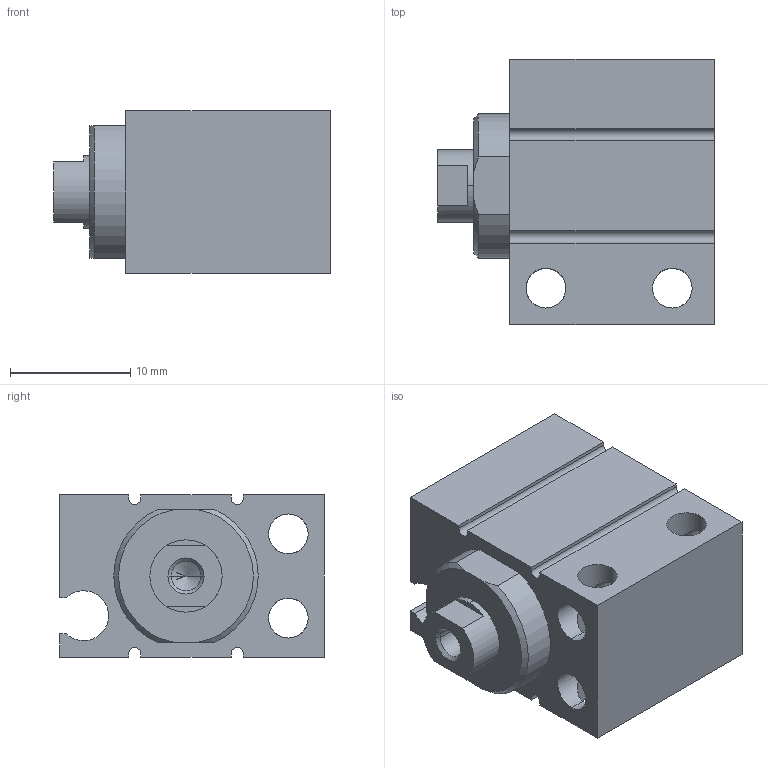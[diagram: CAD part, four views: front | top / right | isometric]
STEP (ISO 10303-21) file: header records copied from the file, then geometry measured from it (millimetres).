
FILE_DESCRIPTION (( 'STEP AP203' ), '1' );
FILE_NAME ('CLJB10-4.STEP', '2020-07-30T18:46:23', ( '' ), ( '' ), 'SwSTEP 2.0', 'SolidWorks 2019', '' );
FILE_SCHEMA (( 'CONFIG_CONTROL_DESIGN' ));
Length unit declared in the file: millimetre
Products named in the file (1): CLJB10-4
Bounding box: 23 x 22 x 13.5 mm (x, y, z)
Volume: 4479.2 mm3; surface area: 3440.3 mm2
Topology: 2 solids, 2 shells, 96 faces, 252 edges, 153 vertices
Faces by surface type: cylinder 49, plane 33, cone 14
Entity records: 2995 total; most frequent: CARTESIAN_POINT 604, ORIENTED_EDGE 492, DIRECTION 482, EDGE_CURVE 246, AXIS2_PLACEMENT_3D 175, VERTEX_POINT 153, VECTOR 132, LINE 132
